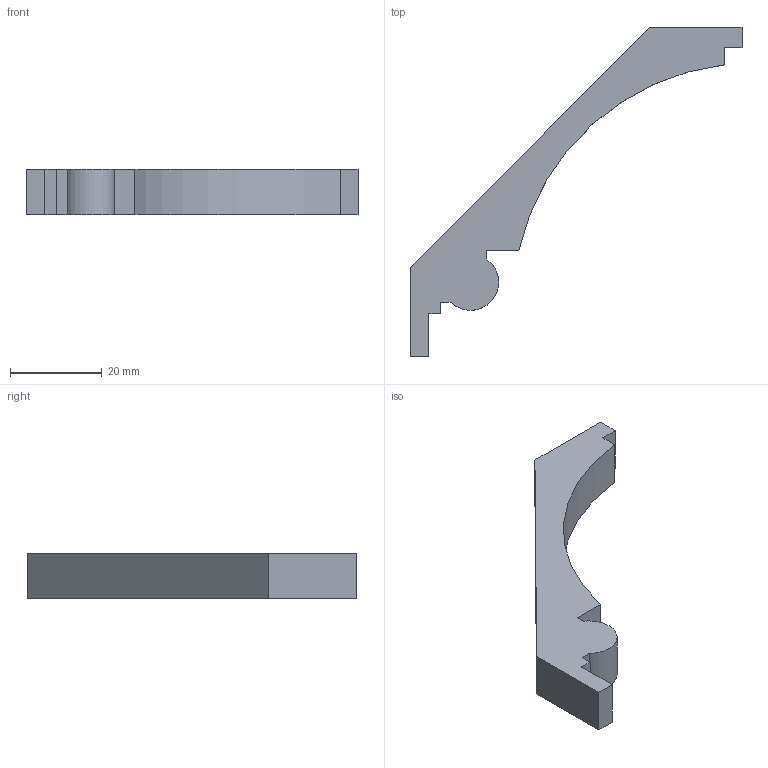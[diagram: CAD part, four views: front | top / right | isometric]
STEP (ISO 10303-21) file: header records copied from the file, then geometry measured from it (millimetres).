
FILE_DESCRIPTION (( 'STEP AP203' ), '1' );
FILE_NAME ('AB402-4.STEP', '2024-02-22T12:54:42', ( '' ), ( '' ), 'SwSTEP 2.0', 'SolidWorks 2020', '' );
FILE_SCHEMA (( 'CONFIG_CONTROL_DESIGN' ));
Length unit declared in the file: millimetre
Products named in the file (1): AB402-4
Bounding box: 72.18 x 71.69 x 10 mm (x, y, z)
Volume: 9449.8 mm3; surface area: 4284.5 mm2
Topology: 1 solids, 1 shells, 17 faces, 45 edges, 30 vertices
Faces by surface type: plane 15, cylinder 2
Entity records: 600 total; most frequent: CARTESIAN_POINT 93, ORIENTED_EDGE 90, DIRECTION 85, EDGE_CURVE 45, LINE 41, VECTOR 41, VERTEX_POINT 30, AXIS2_PLACEMENT_3D 22
